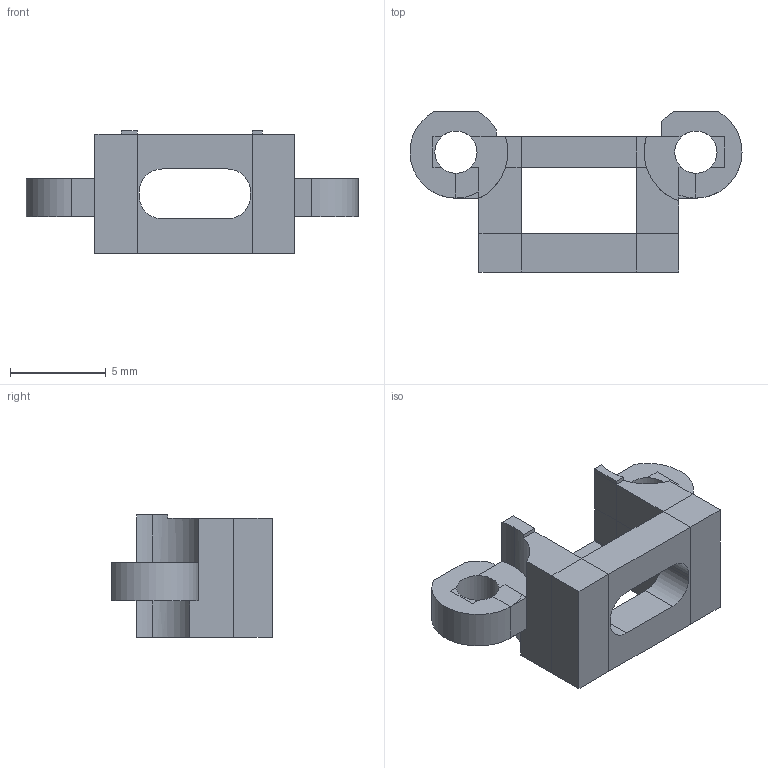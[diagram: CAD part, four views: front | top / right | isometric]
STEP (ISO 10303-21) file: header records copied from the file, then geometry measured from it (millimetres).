
FILE_DESCRIPTION(('Open CASCADE Model'),'2;1');
FILE_NAME('Open CASCADE Shape Model','2026-09-15T15:05:47',('Author'),( 'Open CASCADE'),'Open CASCADE STEP processor 7.7','Open CASCADE 7.7' ,'Unknown');
FILE_SCHEMA(('AUTOMOTIVE_DESIGN { 1 0 10303 214 1 1 1 1 }'));
Length unit declared in the file: millimetre
Products named in the file (1): Open CASCADE STEP translator 7.7 1
Bounding box: 17.29 x 8.35 x 6.4 mm (x, y, z)
Volume: 269.1 mm3; surface area: 496.8 mm2
Topology: 1 solids, 1 shells, 104 faces, 283 edges, 175 vertices
Faces by surface type: plane 87, cylinder 17
Full cylindrical faces by diameter (mm): 2.2 x2
Entity records: 6843 total; most frequent: CARTESIAN_POINT 1301, DIRECTION 1002, LINE 579, VECTOR 579, ORIENTED_EDGE 566, PCURVE 566, DEFINITIONAL_REPRESENTATION 566, EDGE_CURVE 283
